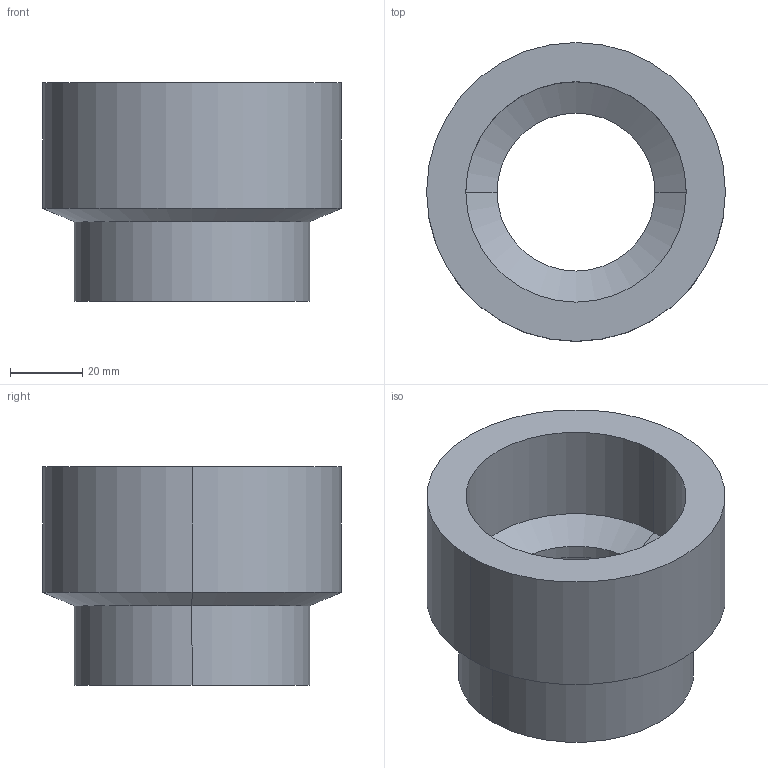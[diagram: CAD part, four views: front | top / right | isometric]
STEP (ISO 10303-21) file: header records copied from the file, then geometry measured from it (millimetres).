
FILE_DESCRIPTION (( 'STEP AP203' ), '1' );
FILE_NAME ('PMR15 FADO.STEP', '2022-08-23T10:45:47', ( '' ), ( '' ), 'SwSTEP 2.0', 'SolidWorks 2021', '' );
FILE_SCHEMA (( 'CONFIG_CONTROL_DESIGN' ));
Length unit declared in the file: millimetre
Products named in the file (1): PMR15 FADO
Bounding box: 82.7 x 82.7 x 60.46 mm (x, y, z)
Volume: 133717.6 mm3; surface area: 31169.3 mm2
Topology: 1 solids, 1 shells, 17 faces, 34 edges, 20 vertices
Faces by surface type: cylinder 10, cone 4, plane 3
Entity records: 525 total; most frequent: DIRECTION 90, CARTESIAN_POINT 72, ORIENTED_EDGE 68, AXIS2_PLACEMENT_3D 38, EDGE_CURVE 34, EDGE_LOOP 20, CIRCLE 20, VERTEX_POINT 20
